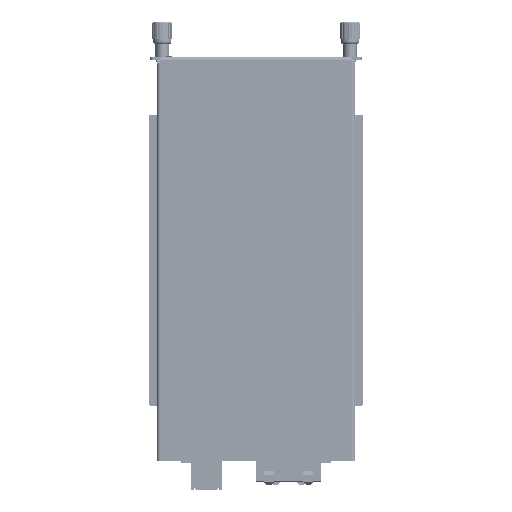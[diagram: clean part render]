
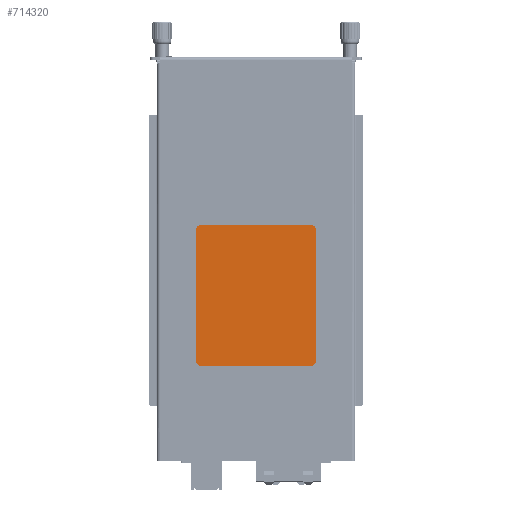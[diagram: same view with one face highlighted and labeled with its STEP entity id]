
A CAD part, front view. The second image highlights one B-rep face of the part: STEP entity #714320.
In plain terms, the highlighted planar face has unit normal (0, 1, 0).
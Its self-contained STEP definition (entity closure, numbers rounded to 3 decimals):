
#707449=CARTESIAN_POINT('',(-21.05,0.3,-66.6));
#707450=DIRECTION('',(0.,-1.,0.));
#707451=DIRECTION('',(0.,0.,1.));
#707452=AXIS2_PLACEMENT_3D('',#707449,#707450,#707451);
#707457=DIRECTION('',(0.,0.,-1.));
#707458=VECTOR('',#707457,50.1);
#707459=CARTESIAN_POINT('',(-23.05,0.3,-66.6));
#707460=LINE('',#707459,#707458);
#707464=CARTESIAN_POINT('',(-21.05,0.3,-116.7));
#707465=DIRECTION('',(0.,-1.,0.));
#707466=DIRECTION('',(-1.,0.,0.));
#707467=AXIS2_PLACEMENT_3D('',#707464,#707465,#707466);
#707472=DIRECTION('',(1.,0.,0.));
#707473=VECTOR('',#707472,42.1);
#707474=CARTESIAN_POINT('',(-21.05,0.3,-118.7));
#707475=LINE('',#707474,#707473);
#707479=CARTESIAN_POINT('',(21.05,0.3,-116.7));
#707480=DIRECTION('',(0.,-1.,0.));
#707481=DIRECTION('',(0.,0.,-1.));
#707482=AXIS2_PLACEMENT_3D('',#707479,#707480,#707481);
#707487=DIRECTION('',(0.,0.,1.));
#707488=VECTOR('',#707487,50.1);
#707489=CARTESIAN_POINT('',(23.05,0.3,-116.7));
#707490=LINE('',#707489,#707488);
#707494=CARTESIAN_POINT('',(21.05,0.3,-66.6));
#707495=DIRECTION('',(0.,-1.,0.));
#707496=DIRECTION('',(1.,0.,0.));
#707497=AXIS2_PLACEMENT_3D('',#707494,#707495,#707496);
#707502=DIRECTION('',(-1.,0.,0.));
#707503=VECTOR('',#707502,42.1);
#707504=CARTESIAN_POINT('',(21.05,0.3,-64.6));
#707505=LINE('',#707504,#707503);
#708665=CARTESIAN_POINT('',(-23.05,0.3,-116.7));
#708666=VERTEX_POINT('',#708665);
#708667=CARTESIAN_POINT('',(-23.05,0.3,-66.6));
#708668=VERTEX_POINT('',#708667);
#708669=CARTESIAN_POINT('',(-21.05,0.3,-64.6));
#708670=VERTEX_POINT('',#708669);
#708671=CARTESIAN_POINT('',(21.05,0.3,-64.6));
#708672=VERTEX_POINT('',#708671);
#708673=CARTESIAN_POINT('',(23.05,0.3,-66.6));
#708674=VERTEX_POINT('',#708673);
#708675=CARTESIAN_POINT('',(23.05,0.3,-116.7));
#708676=VERTEX_POINT('',#708675);
#708677=CARTESIAN_POINT('',(21.05,0.3,-118.7));
#708678=VERTEX_POINT('',#708677);
#708679=CARTESIAN_POINT('',(-21.05,0.3,-118.7));
#708680=VERTEX_POINT('',#708679);
#714305=CARTESIAN_POINT('',(0.,0.3,-91.65));
#714306=DIRECTION('',(0.,1.,0.));
#714307=DIRECTION('',(1.,0.,0.));
#714308=AXIS2_PLACEMENT_3D('',#714305,#714306,#714307);
#714309=PLANE('',#714308);
#714310=ORIENTED_EDGE('',*,*,#714299,.T.);
#714311=ORIENTED_EDGE('',*,*,#714201,.T.);
#714312=ORIENTED_EDGE('',*,*,#714216,.T.);
#714313=ORIENTED_EDGE('',*,*,#714230,.T.);
#714314=ORIENTED_EDGE('',*,*,#714244,.T.);
#714315=ORIENTED_EDGE('',*,*,#714258,.T.);
#714316=ORIENTED_EDGE('',*,*,#714272,.T.);
#714317=ORIENTED_EDGE('',*,*,#714286,.T.);
#714318=EDGE_LOOP('',(#714310,#714311,#714312,#714313,#714314,#714315,#714316,
#714317));
#714319=FACE_OUTER_BOUND('',#714318,.F.);
#707453=CIRCLE('',#707452,2.);
#707468=CIRCLE('',#707467,2.);
#707483=CIRCLE('',#707482,2.);
#707498=CIRCLE('',#707497,2.);
#714201=EDGE_CURVE('',#708668,#708666,#707460,.T.);
#714216=EDGE_CURVE('',#708666,#708680,#707468,.T.);
#714230=EDGE_CURVE('',#708680,#708678,#707475,.T.);
#714244=EDGE_CURVE('',#708678,#708676,#707483,.T.);
#714258=EDGE_CURVE('',#708676,#708674,#707490,.T.);
#714272=EDGE_CURVE('',#708674,#708672,#707498,.T.);
#714286=EDGE_CURVE('',#708672,#708670,#707505,.T.);
#714299=EDGE_CURVE('',#708670,#708668,#707453,.T.);
#714320=ADVANCED_FACE('',(#714319),#714309,.T.);
